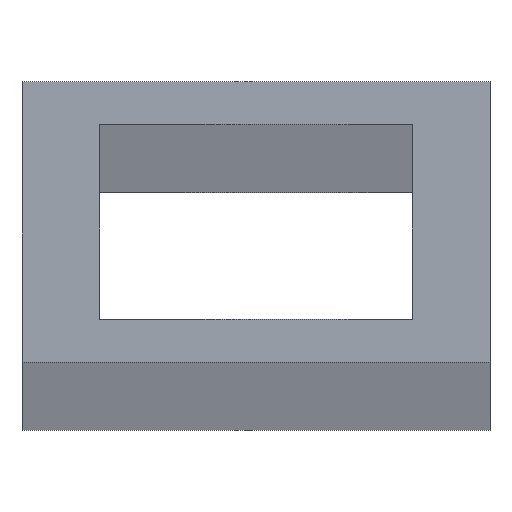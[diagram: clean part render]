
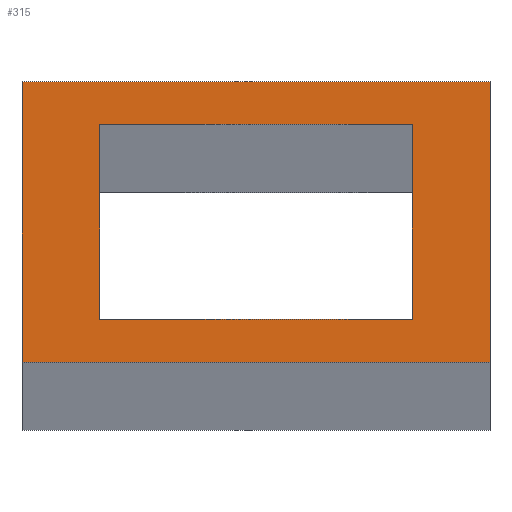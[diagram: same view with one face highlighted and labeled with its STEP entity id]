
A CAD part, top view. The second image highlights one B-rep face of the part: STEP entity #315.
In plain terms, the highlighted planar face has unit normal (0, 0, 1).
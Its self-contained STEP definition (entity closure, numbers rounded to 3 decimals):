
#5 = VERTEX_POINT ( 'NONE', #255 ) ;
#12 = CARTESIAN_POINT ( 'NONE',  ( 6., 3.6, 1000. ) ) ;
#19 = ORIENTED_EDGE ( 'NONE', *, *, #217, .F. ) ;
#21 = VERTEX_POINT ( 'NONE', #202 ) ;
#23 = VECTOR ( 'NONE', #94, 1000. ) ;
#28 = VERTEX_POINT ( 'NONE', #171 ) ;
#33 = CARTESIAN_POINT ( 'NONE',  ( -4., 2.5, 1000. ) ) ;
#36 = CARTESIAN_POINT ( 'NONE',  ( 4., 2.5, 1000. ) ) ;
#39 = CARTESIAN_POINT ( 'NONE',  ( 0., 0., 1000. ) ) ;
#42 = ORIENTED_EDGE ( 'NONE', *, *, #199, .T. ) ;
#46 = VECTOR ( 'NONE', #164, 1000. ) ;
#58 = CARTESIAN_POINT ( 'NONE',  ( 4., 2.5, 1000. ) ) ;
#61 = CARTESIAN_POINT ( 'NONE',  ( -6., 3.6, 1000. ) ) ;
#64 = VECTOR ( 'NONE', #118, 1000. ) ;
#71 = ORIENTED_EDGE ( 'NONE', *, *, #298, .T. ) ;
#72 = ORIENTED_EDGE ( 'NONE', *, *, #73, .F. ) ;
#73 = EDGE_CURVE ( 'NONE', #21, #100, #168, .T. ) ;
#74 = CARTESIAN_POINT ( 'NONE',  ( -6., 3.6, 1000. ) ) ;
#76 = VERTEX_POINT ( 'NONE', #290 ) ;
#85 = VECTOR ( 'NONE', #351, 1000. ) ;
#90 = VECTOR ( 'NONE', #177, 1000. ) ;
#94 = DIRECTION ( 'NONE',  ( -1., 0., 0. ) ) ;
#97 = EDGE_CURVE ( 'NONE', #331, #5, #294, .T. ) ;
#98 = LINE ( 'NONE', #74, #304 ) ;
#100 = VERTEX_POINT ( 'NONE', #36 ) ;
#109 = EDGE_CURVE ( 'NONE', #100, #278, #326, .T. ) ;
#118 = DIRECTION ( 'NONE',  ( 1., 0., 0. ) ) ;
#122 = CARTESIAN_POINT ( 'NONE',  ( -6., -3.6, 1000. ) ) ;
#130 = AXIS2_PLACEMENT_3D ( 'NONE', #39, #277, #359 ) ;
#143 = EDGE_CURVE ( 'NONE', #28, #21, #269, .T. ) ;
#158 = LINE ( 'NONE', #12, #46 ) ;
#159 = ORIENTED_EDGE ( 'NONE', *, *, #97, .T. ) ;
#162 = FACE_BOUND ( 'NONE', #363, .T. ) ;
#164 = DIRECTION ( 'NONE',  ( 0., 1., 0. ) ) ;
#165 = ORIENTED_EDGE ( 'NONE', *, *, #143, .F. ) ;
#168 = LINE ( 'NONE', #58, #90 ) ;
#171 = CARTESIAN_POINT ( 'NONE',  ( -4., -2.5, 1000. ) ) ;
#177 = DIRECTION ( 'NONE',  ( 0., 1., 0. ) ) ;
#192 = PLANE ( 'NONE',  #130 ) ;
#199 = EDGE_CURVE ( 'NONE', #258, #76, #208, .T. ) ;
#202 = CARTESIAN_POINT ( 'NONE',  ( 4., -2.5, 1000. ) ) ;
#206 = DIRECTION ( 'NONE',  ( 1., 0., 0. ) ) ;
#208 = LINE ( 'NONE', #122, #235 ) ;
#214 = DIRECTION ( 'NONE',  ( 0., -1., 0. ) ) ;
#217 = EDGE_CURVE ( 'NONE', #278, #28, #357, .T. ) ;
#221 = CARTESIAN_POINT ( 'NONE',  ( -6., -3.6, 1000. ) ) ;
#235 = VECTOR ( 'NONE', #206, 1000. ) ;
#238 = CARTESIAN_POINT ( 'NONE',  ( -4., -2.5, 1000. ) ) ;
#247 = VECTOR ( 'NONE', #268, 1000. ) ;
#255 = CARTESIAN_POINT ( 'NONE',  ( -6., 3.6, 1000. ) ) ;
#258 = VERTEX_POINT ( 'NONE', #221 ) ;
#268 = DIRECTION ( 'NONE',  ( -1., 0., 0. ) ) ;
#269 = LINE ( 'NONE', #238, #64 ) ;
#271 = CARTESIAN_POINT ( 'NONE',  ( 6., 3.6, 1000. ) ) ;
#277 = DIRECTION ( 'NONE',  ( 0., 0., 1. ) ) ;
#278 = VERTEX_POINT ( 'NONE', #365 ) ;
#290 = CARTESIAN_POINT ( 'NONE',  ( 6., -3.6, 1000. ) ) ;
#291 = CARTESIAN_POINT ( 'NONE',  ( -4., 2.5, 1000. ) ) ;
#294 = LINE ( 'NONE', #61, #23 ) ;
#298 = EDGE_CURVE ( 'NONE', #76, #331, #158, .T. ) ;
#299 = FACE_OUTER_BOUND ( 'NONE', #338, .T. ) ;
#304 = VECTOR ( 'NONE', #214, 1000. ) ;
#315 = ADVANCED_FACE ( 'NONE', ( #299, #162 ), #192, .T. ) ;
#325 = EDGE_CURVE ( 'NONE', #5, #258, #98, .T. ) ;
#326 = LINE ( 'NONE', #291, #247 ) ;
#331 = VERTEX_POINT ( 'NONE', #271 ) ;
#338 = EDGE_LOOP ( 'NONE', ( #367, #42, #71, #159 ) ) ;
#346 = ORIENTED_EDGE ( 'NONE', *, *, #109, .F. ) ;
#351 = DIRECTION ( 'NONE',  ( 0., -1., 0. ) ) ;
#357 = LINE ( 'NONE', #33, #85 ) ;
#359 = DIRECTION ( 'NONE',  ( 1., 0., 0. ) ) ;
#363 = EDGE_LOOP ( 'NONE', ( #165, #19, #346, #72 ) ) ;
#365 = CARTESIAN_POINT ( 'NONE',  ( -4., 2.5, 1000. ) ) ;
#367 = ORIENTED_EDGE ( 'NONE', *, *, #325, .T. ) ;
